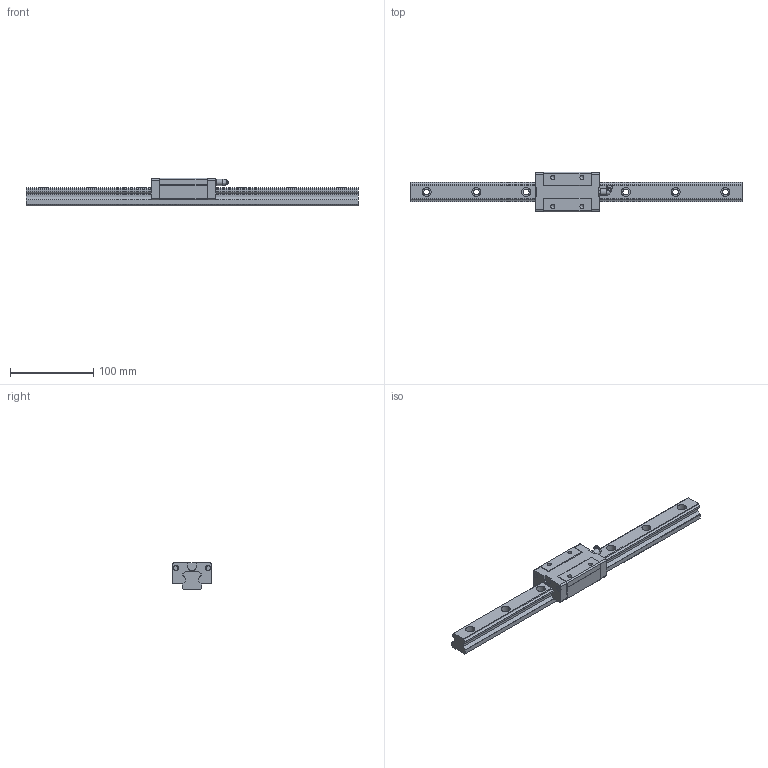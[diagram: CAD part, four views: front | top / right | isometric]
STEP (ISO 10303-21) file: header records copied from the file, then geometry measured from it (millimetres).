
FILE_DESCRIPTION((''),'2;1');
FILE_NAME('D:\製品 (図面)\カタログ用3D\リニアガイド関連\STEP形式\LGS\LGS25.stp','2010-06-02T16:00:37',('Tsuchiya'),(''),'Autodesk Inventor 10','Autodesk Inventor 10','');
FILE_SCHEMA(('AUTOMOTIVE_DESIGN { 1 0 10303 214 1 1 1 1 }'));
Length unit declared in the file: millimetre
Products named in the file (3): LGS25; LGS251; LGS252
Assembly tree (2 placements, depth 2):
  LGS25
    LGS251
    LGS252
Bounding box: 400 x 48 x 33 mm (x, y, z)
Volume: 233803.2 mm3; surface area: 58020.1 mm2
Topology: 2 solids, 2 shells, 156 faces, 407 edges, 268 vertices
Faces by surface type: plane 80, bspline 37, cylinder 32, cone 4, sphere 3
Full cylindrical faces by diameter (mm): 4.917 x2, 5.5 x2, 6.5 x2, 7 x1, 7.7 x1
Entity records: 5068 total; most frequent: CARTESIAN_POINT 1389, DIRECTION 718, ORIENTED_EDGE 712, EDGE_CURVE 356, VERTEX_POINT 258, AXIS2_PLACEMENT_3D 242, VECTOR 234, LINE 234
